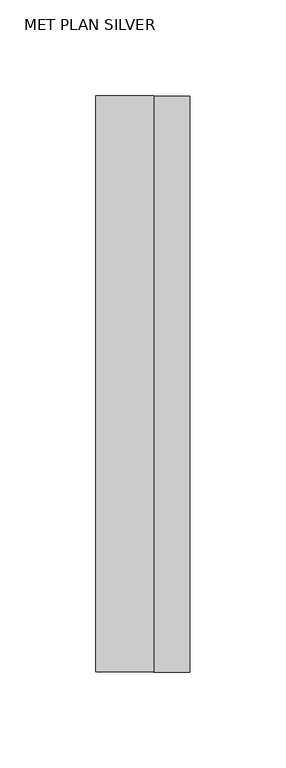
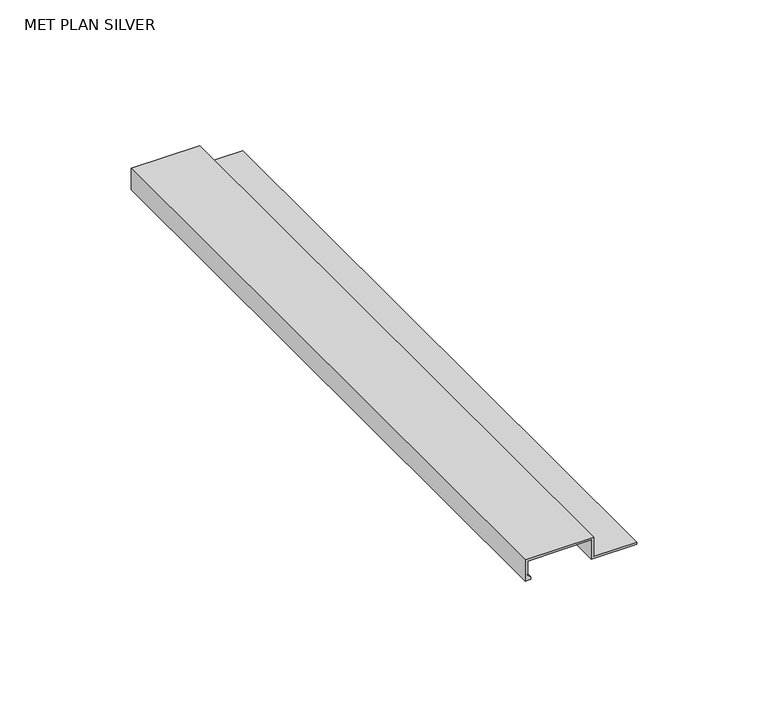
"""IFC4 building model written with IfcOpenShell, lengths in millimetres: proxy geometry, PORTOBELLO - METALLICA MET MID PLAN 3X120 : MET PLAN SILVER."""

import ifcopenshell
import ifcopenshell.guid

model = None  # the IFC model being written
_history = None  # IfcOwnerHistory: only IFC2X3 demands one
_inside = {}  # id of a spatial element -> (the spatial element, [elements in it])
_under = {}  # id of a project, library or spatial element -> (it, [spatial elements below it])
_declared = {}  # id of a project -> (the project, [libraries it declares])
_typed = {}  # id of a type object -> (the type object, [elements of that type])
_made_of = {}  # id of a material, layer set ... -> (it, [elements and type objects made of it])


def new_model(schema):
    """Start an empty IFC model of exactly this schema.

    Asked for "IFC4X3", IfcOpenShell would pick the latest addendum, in which some entities
    have other attributes; the version numbers below select the first issue.
    IFC2X3 requires an IfcOwnerHistory on every rooted entity: one is made here for all.
    """
    global model, _history
    if schema == "IFC4X3":
        model = ifcopenshell.file(schema_version=(4, 3, 0, 0))
    else:
        model = ifcopenshell.file(schema=schema)
    _inside.clear()
    _under.clear()
    _declared.clear()
    _typed.clear()
    _made_of.clear()
    _history = None
    if model.schema == "IFC2X3":
        org = make("IfcOrganization", Name="unknown")
        user = make(
            "IfcPersonAndOrganization",
            ThePerson=make("IfcPerson", FamilyName="unknown"),
            TheOrganization=org,
        )
        app = make(
            "IfcApplication",
            ApplicationDeveloper=org,
            Version="unknown",
            ApplicationFullName="unknown",
            ApplicationIdentifier="unknown",
        )
        _history = make(
            "IfcOwnerHistory",
            OwningUser=user,
            OwningApplication=app,
            ChangeAction="ADDED",
            CreationDate=0,
        )
    return model


def make(cls, **values):
    """One entity of the class cls with the attributes given. An attribute that is None is left unset."""
    return model.create_entity(
        cls, **{name: value for name, value in values.items() if value is not None}
    )


def rooted(cls, **values):
    """An entity with a GlobalId (a new one), such as an element, a storey or a relation."""
    return make(cls, GlobalId=ifcopenshell.guid.new(), OwnerHistory=_history, **values)


def si_unit(unit_type, name, prefix=None):
    """IfcSIUnit, for example si_unit("LENGTHUNIT", "METRE", prefix="MILLI")."""
    return make("IfcSIUnit", UnitType=unit_type, Prefix=prefix, Name=name)


def assignment(units):
    """IfcUnitAssignment: the units of a project."""
    return None if units is None else make("IfcUnitAssignment", Units=units)


def point(xyz):
    """IfcCartesianPoint."""
    return None if xyz is None else make("IfcCartesianPoint", Coordinates=xyz)


def direction(xyz):
    """IfcDirection."""
    return None if xyz is None else make("IfcDirection", DirectionRatios=xyz)


def frame(location, z_axis=None, x_axis=None):
    """IfcAxis2Placement3D, a coordinate frame: its origin and axes. An axis left out is left unset."""
    return make(
        "IfcAxis2Placement3D",
        Location=point(location),
        Axis=direction(z_axis),
        RefDirection=direction(x_axis),
    )


def origin():
    """The frame at (0, 0, 0) with its axes left unset."""
    return frame((0.0, 0.0, 0.0))


def place(relative_to, where):
    """IfcLocalPlacement: puts the frame where relative to a parent placement (None: the world)."""
    return make(
        "IfcLocalPlacement", PlacementRelTo=relative_to, RelativePlacement=where
    )


def context(
    kind, dimensions, precision=None, world=None, true_north=None, identifier=None
):
    """IfcGeometricRepresentationContext, for example the 3D "Model" context."""
    return make(
        "IfcGeometricRepresentationContext",
        ContextIdentifier=identifier,
        ContextType=kind,
        CoordinateSpaceDimension=dimensions,
        Precision=precision,
        WorldCoordinateSystem=world,
        TrueNorth=true_north,
    )


def project(units=None, contexts=None):
    """IfcProject with its units and contexts."""
    return rooted(
        "IfcProject",
        Name="project",
        RepresentationContexts=contexts,
        UnitsInContext=assignment(units),
    )


def spatial(cls, under=None, at=None, **own):
    """A site, building, storey or space (cls), placed at a placement, below another one or the project."""
    s = rooted(cls, ObjectPlacement=at, **own)
    if under is not None:
        _under.setdefault(under.id(), (under, []))[1].append(s)
    return s


def polyline(points):
    """IfcPolyline through the points."""
    return make("IfcPolyline", Points=[point(p) for p in points])


def outline(outer, holes=None, kind="AREA"):
    """IfcArbitraryClosedProfileDef: a profile drawn as a closed curve; with holes, ...WithVoids."""
    if holes is None:
        return make("IfcArbitraryClosedProfileDef", ProfileType=kind, OuterCurve=outer)
    return make(
        "IfcArbitraryProfileDefWithVoids",
        ProfileType=kind,
        OuterCurve=outer,
        InnerCurves=holes,
    )


def extrude(swept, where, along, depth):
    """IfcExtrudedAreaSolid: the profile swept, set in the frame where, extruded along a direction by depth."""
    return make(
        "IfcExtrudedAreaSolid",
        SweptArea=swept,
        Position=where,
        ExtrudedDirection=direction(along),
        Depth=depth,
    )


def shape(context_of_items, identifier, shape_type, items):
    """IfcShapeRepresentation: the items that make up one representation, for example the "Body"."""
    return make(
        "IfcShapeRepresentation",
        ContextOfItems=context_of_items,
        RepresentationIdentifier=identifier,
        RepresentationType=shape_type,
        Items=items,
    )


def source(mapping_origin, context_of_items, identifier, shape_type, items):
    """IfcRepresentationMap: a shape defined once, which mapped items show again and again."""
    return make(
        "IfcRepresentationMap",
        MappingOrigin=mapping_origin,
        MappedRepresentation=shape(context_of_items, identifier, shape_type, items),
    )


def transform(
    local_origin,
    x_axis=None,
    y_axis=None,
    z_axis=None,
    scale=None,
    scale2=None,
    scale3=None,
    uniform=True,
):
    """IfcCartesianTransformationOperator3D, or its non-uniform kind. x_axis, y_axis, z_axis: its Axis1, 2, 3."""
    if uniform:
        return make(
            "IfcCartesianTransformationOperator3D",
            Axis1=direction(x_axis),
            Axis2=direction(y_axis),
            LocalOrigin=point(local_origin),
            Scale=scale,
            Axis3=direction(z_axis),
        )
    return make(
        "IfcCartesianTransformationOperator3DnonUniform",
        Axis1=direction(x_axis),
        Axis2=direction(y_axis),
        LocalOrigin=point(local_origin),
        Scale=scale,
        Axis3=direction(z_axis),
        Scale2=scale2,
        Scale3=scale3,
    )


def mapped(mapping_source, mapping_target):
    """IfcMappedItem: shows the shape of a source again, moved by a transform."""
    return make(
        "IfcMappedItem", MappingSource=mapping_source, MappingTarget=mapping_target
    )


def made_of(thing, what):
    """Note that an element or type object is made of a material, layer set ...; save() writes the relation."""
    if what is not None:
        _made_of.setdefault(what.id(), (what, []))[1].append(thing)
    return thing


def element(
    cls,
    number,
    at=None,
    inside=None,
    cuts=None,
    type_object=None,
    material=None,
    context=None,
    identifier="Body",
    shape_type=None,
    held_by="IfcProductDefinitionShape",
    body=None,
    shapes=None,
    **own,
):
    """One element of the class cls, such as IfcWall. Its Tag is "e" and its number.

    at: its placement. inside: the storey or other place that contains it. cuts: it is an
    opening in that element (IfcRelVoidsElement). A single representation is given by context,
    identifier, shape_type and body (its items); several are given by shapes. held_by: the class
    of the entity that holds the representations. save() writes the other relations.
    """
    e = rooted(cls, Tag="e%d" % number, ObjectPlacement=at, **own)
    if body is not None:
        shapes = [shape(context, identifier, shape_type, body)]
    if shapes is not None:
        e.Representation = make(held_by, Representations=shapes)
    if inside is not None:
        _inside.setdefault(inside.id(), (inside, []))[1].append(e)
    if cuts is not None:
        rooted(
            "IfcRelVoidsElement", RelatingBuildingElement=cuts, RelatedOpeningElement=e
        )
    if type_object is not None:
        _typed.setdefault(type_object.id(), (type_object, []))[1].append(e)
    return made_of(e, material)


def aggregate(whole, parts):
    """IfcRelAggregates: a whole, such as a stair, and the parts it consists of."""
    return rooted("IfcRelAggregates", RelatingObject=whole, RelatedObjects=parts)


def save(model, path):
    """Write the relations noted so far, then the file.

    IfcRelAggregates (storeys below a building ...), IfcRelContainedInSpatialStructure (elements
    in a storey), IfcRelDefinesByType, IfcRelAssociatesMaterial and IfcRelDeclares: one each for
    every whole, place, type object, material and project.
    """
    for whole, parts in _under.values():
        aggregate(whole, parts)
    for where, things in _inside.values():
        rooted(
            "IfcRelContainedInSpatialStructure",
            RelatedElements=things,
            RelatingStructure=where,
        )
    for kind, things in _typed.values():
        rooted("IfcRelDefinesByType", RelatedObjects=things, RelatingType=kind)
    for what, things in _made_of.values():
        rooted("IfcRelAssociatesMaterial", RelatedObjects=things, RelatingMaterial=what)
    for by, libraries in _declared.values():
        rooted("IfcRelDeclares", RelatingContext=by, RelatedDefinitions=libraries)
    model.write(path)


def met_plan_silver_266e2bea(model_context):
    return source(origin(), model_context, "Body", "SweptSolid", [
        extrude(outline(polyline([(1.0, -15.0), (-9.0, -15.0), (-9.0, -12.7289948), (-7.7920635, -12.7289948), (-6.5210583, -14.0), (0.0, -14.0), (0.0, 14.0), (-9.0, 14.0), (-9.0, 33.9106111), (-8.0, 33.9106111), (-8.0, 15.0), (1.0, 15.0), (1.0, -15.0)])), frame((0.0, 299.9994323, 0.0), z_axis=(0.0, 1.0, 0.0), x_axis=(0.0, 0.0, 1.0)), (0.0, 0.0, 1.0), 300.0005677),
    ])


if __name__ == "__main__":
    model = new_model("IFC4")
    model_context = context("Model", 3, world=origin())
    ifc_project = project(units=[si_unit("LENGTHUNIT", "METRE", prefix="MILLI")], contexts=[model_context])
    site = spatial("IfcSite", under=ifc_project)
    building = spatial("IfcBuilding", under=site)
    placement = place(None, origin())
    met_plan_silver_shape = met_plan_silver_266e2bea(model_context)
    element("IfcBuildingElementProxy", 1, Name="PORTOBELLO - METALLICA MET MID PLAN 3X120 : MET PLAN SILVER", ObjectType="PORTOBELLO - METALLICA MET MID PLAN 3X120 : MET PLAN SILVER", at=placement, inside=building, context=model_context, shape_type="MappedRepresentation", body=[
        mapped(met_plan_silver_shape, transform((0.0, 0.0, 0.0), x_axis=(1.0, 0.0, 0.0), y_axis=(0.0, 1.0, 0.0), z_axis=(0.0, 0.0, 1.0))),
    ])
    save(model, "model.ifc")
